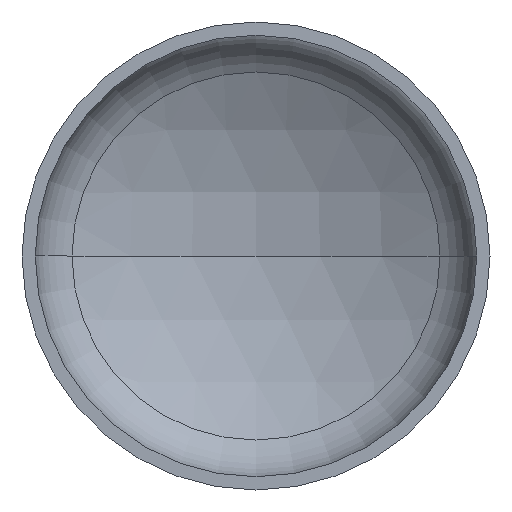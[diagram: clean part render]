
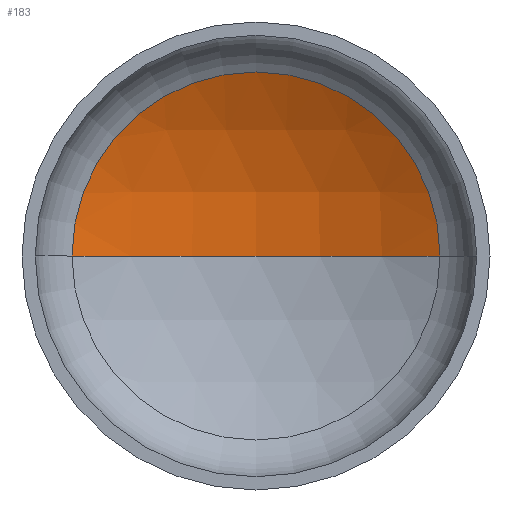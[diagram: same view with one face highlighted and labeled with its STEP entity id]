
A CAD part, front view. The second image highlights one B-rep face of the part: STEP entity #183.
In plain terms, the highlighted spherical face has radius 2880 mm.
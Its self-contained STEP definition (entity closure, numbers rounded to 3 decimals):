
#3 = AXIS2_PLACEMENT_3D ( 'NONE', #150, #155, #187 ) ;
#12 = AXIS2_PLACEMENT_3D ( 'NONE', #276, #112, #140 ) ;
#13 = SPHERICAL_SURFACE ( 'NONE', #109, 2880. ) ;
#15 = EDGE_LOOP ( 'NONE', ( #106, #78, #66 ) ) ;
#30 = VERTEX_POINT ( 'NONE', #258 ) ;
#40 = VERTEX_POINT ( 'NONE', #256 ) ;
#55 = AXIS2_PLACEMENT_3D ( 'NONE', #173, #211, #375 ) ;
#59 = VERTEX_POINT ( 'NONE', #244 ) ;
#66 = ORIENTED_EDGE ( 'NONE', *, *, #360, .T. ) ;
#78 = ORIENTED_EDGE ( 'NONE', *, *, #362, .T. ) ;
#106 = ORIENTED_EDGE ( 'NONE', *, *, #334, .F. ) ;
#109 = AXIS2_PLACEMENT_3D ( 'NONE', #367, #201, #408 ) ;
#112 = DIRECTION ( 'NONE',  ( 0., -1., 0. ) ) ;
#140 = DIRECTION ( 'NONE',  ( 1., 0., 0. ) ) ;
#150 = CARTESIAN_POINT ( 'NONE',  ( 0., -1949.642, 0. ) ) ;
#155 = DIRECTION ( 'NONE',  ( 0., 0., -1. ) ) ;
#173 = CARTESIAN_POINT ( 'NONE',  ( 0., -1949.642, 0. ) ) ;
#183 = ADVANCED_FACE ( 'NONE', ( #246 ), #13, .F. ) ;
#187 = DIRECTION ( 'NONE',  ( -1., 0., 0. ) ) ;
#201 = DIRECTION ( 'NONE',  ( 0., 0., -1. ) ) ;
#211 = DIRECTION ( 'NONE',  ( 0., 0., 1. ) ) ;
#244 = CARTESIAN_POINT ( 'NONE',  ( 1415.845, 558.302, 0. ) ) ;
#246 = FACE_OUTER_BOUND ( 'NONE', #15, .T. ) ;
#256 = CARTESIAN_POINT ( 'NONE',  ( 0., 930.358, 0. ) ) ;
#258 = CARTESIAN_POINT ( 'NONE',  ( -1415.845, 558.302, 0. ) ) ;
#271 = CIRCLE ( 'NONE', #3, 2880. ) ;
#276 = CARTESIAN_POINT ( 'NONE',  ( 0., 558.302, 0. ) ) ;
#334 = EDGE_CURVE ( 'NONE', #40, #30, #335, .T. ) ;
#335 = CIRCLE ( 'NONE', #55, 2880. ) ;
#360 = EDGE_CURVE ( 'NONE', #59, #30, #386, .T. ) ;
#362 = EDGE_CURVE ( 'NONE', #40, #59, #271, .T. ) ;
#367 = CARTESIAN_POINT ( 'NONE',  ( 0., -1949.642, 0. ) ) ;
#375 = DIRECTION ( 'NONE',  ( 1., 0., 0. ) ) ;
#386 = CIRCLE ( 'NONE', #12, 1415.845 ) ;
#408 = DIRECTION ( 'NONE',  ( -1., 0., 0. ) ) ;
